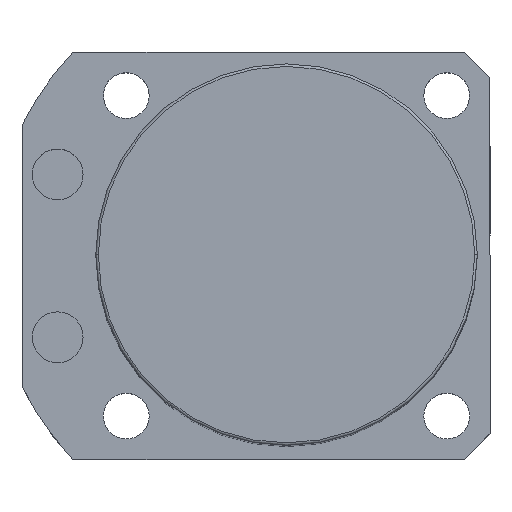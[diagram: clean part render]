
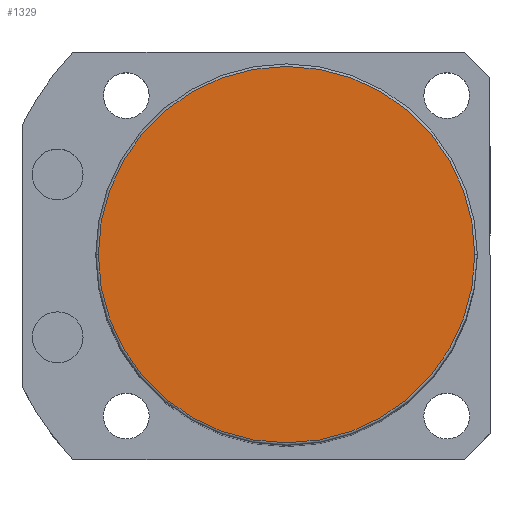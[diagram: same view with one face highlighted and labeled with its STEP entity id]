
A CAD part, top view. The second image highlights one B-rep face of the part: STEP entity #1329.
In plain terms, the highlighted planar face has unit normal (0, 0, 1).
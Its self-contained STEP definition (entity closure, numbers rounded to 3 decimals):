
#71 = EDGE_LOOP ( 'NONE', ( #1392, #1478 ) ) ;
#160 = CARTESIAN_POINT ( 'NONE',  ( -37., 0., 155.5 ) ) ;
#277 = CARTESIAN_POINT ( 'NONE',  ( 37., 0., 155.5 ) ) ;
#363 = CIRCLE ( 'NONE', #802, 37. ) ;
#469 = EDGE_CURVE ( 'NONE', #1367, #1843, #363, .T. ) ;
#549 = CARTESIAN_POINT ( 'NONE',  ( 0., 0., 155.5 ) ) ;
#602 = DIRECTION ( 'NONE',  ( 1., 0., 0. ) ) ;
#728 = DIRECTION ( 'NONE',  ( 1., 0., 0. ) ) ;
#802 = AXIS2_PLACEMENT_3D ( 'NONE', #549, #1774, #602 ) ;
#936 = CARTESIAN_POINT ( 'NONE',  ( 0., 0., 155.5 ) ) ;
#959 = DIRECTION ( 'NONE',  ( 1., 0., 0. ) ) ;
#1036 = EDGE_CURVE ( 'NONE', #1843, #1367, #1981, .T. ) ;
#1305 = AXIS2_PLACEMENT_3D ( 'NONE', #936, #1955, #959 ) ;
#1329 = ADVANCED_FACE ( 'NONE', ( #2504 ), #2147, .T. ) ;
#1367 = VERTEX_POINT ( 'NONE', #160 ) ;
#1392 = ORIENTED_EDGE ( 'NONE', *, *, #1036, .T. ) ;
#1478 = ORIENTED_EDGE ( 'NONE', *, *, #469, .T. ) ;
#1696 = CARTESIAN_POINT ( 'NONE',  ( 0., 0., 155.5 ) ) ;
#1774 = DIRECTION ( 'NONE',  ( 0., 0., 1. ) ) ;
#1843 = VERTEX_POINT ( 'NONE', #277 ) ;
#1955 = DIRECTION ( 'NONE',  ( 0., 0., 1. ) ) ;
#1981 = CIRCLE ( 'NONE', #2273, 37. ) ;
#2129 = DIRECTION ( 'NONE',  ( 0., 0., 1. ) ) ;
#2147 = PLANE ( 'NONE',  #1305 ) ;
#2273 = AXIS2_PLACEMENT_3D ( 'NONE', #1696, #2129, #728 ) ;
#2504 = FACE_OUTER_BOUND ( 'NONE', #71, .T. ) ;
